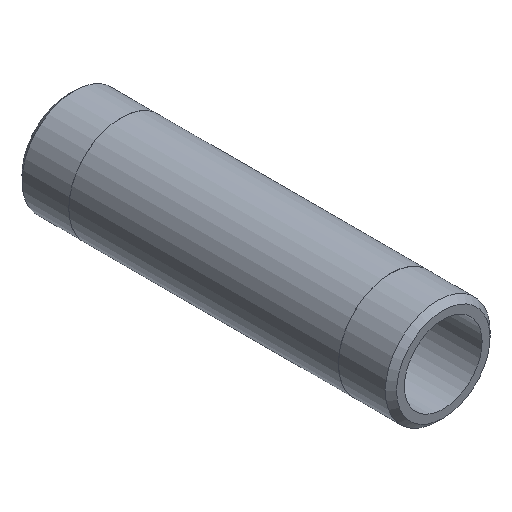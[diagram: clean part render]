
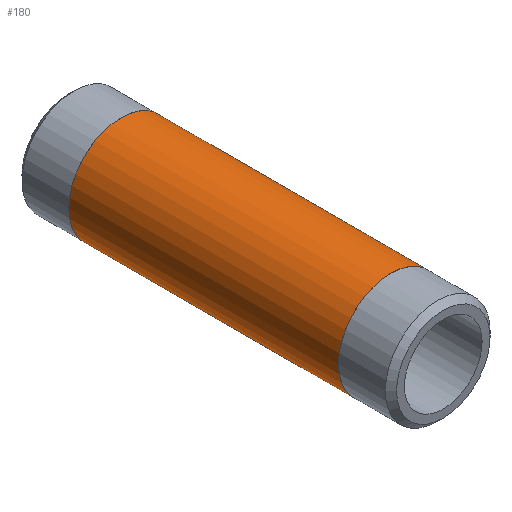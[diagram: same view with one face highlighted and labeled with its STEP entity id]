
A CAD part, isometric view. The second image highlights one B-rep face of the part: STEP entity #180.
In plain terms, the highlighted cylindrical face has radius 10.668 mm (diameter 21.336 mm), a full revolution.
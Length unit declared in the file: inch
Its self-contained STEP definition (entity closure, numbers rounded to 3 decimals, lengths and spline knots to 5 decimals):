
#25=CYLINDRICAL_SURFACE('',#220,0.42);
#34=FACE_OUTER_BOUND('',#47,.T.);
#47=EDGE_LOOP('',(#155,#156,#157,#158,#159,#160));
#55=LINE('',#338,#61);
#61=VECTOR('',#283,0.42);
#77=CIRCLE('',#218,0.42);
#78=CIRCLE('',#219,0.42);
#79=CIRCLE('',#221,0.42);
#80=CIRCLE('',#222,0.42);
#95=VERTEX_POINT('',#329);
#96=VERTEX_POINT('',#330);
#97=VERTEX_POINT('',#334);
#98=VERTEX_POINT('',#335);
#117=EDGE_CURVE('',#95,#96,#77,.T.);
#118=EDGE_CURVE('',#96,#95,#78,.T.);
#119=EDGE_CURVE('',#97,#98,#79,.T.);
#120=EDGE_CURVE('',#98,#97,#80,.T.);
#121=EDGE_CURVE('',#98,#96,#55,.T.);
#155=ORIENTED_EDGE('',*,*,#119,.F.);
#156=ORIENTED_EDGE('',*,*,#120,.F.);
#157=ORIENTED_EDGE('',*,*,#121,.T.);
#158=ORIENTED_EDGE('',*,*,#118,.T.);
#159=ORIENTED_EDGE('',*,*,#117,.T.);
#160=ORIENTED_EDGE('',*,*,#121,.F.);
#180=ADVANCED_FACE('',(#34),#25,.T.);
#218=AXIS2_PLACEMENT_3D('',#331,#273,#274);
#219=AXIS2_PLACEMENT_3D('',#332,#275,#276);
#220=AXIS2_PLACEMENT_3D('',#333,#277,#278);
#221=AXIS2_PLACEMENT_3D('',#336,#279,#280);
#222=AXIS2_PLACEMENT_3D('',#337,#281,#282);
#273=DIRECTION('center_axis',(0.,-1.,0.));
#274=DIRECTION('ref_axis',(1.,0.,0.));
#275=DIRECTION('center_axis',(0.,-1.,0.));
#276=DIRECTION('ref_axis',(1.,0.,0.));
#277=DIRECTION('center_axis',(0.,-1.,0.));
#278=DIRECTION('ref_axis',(0.,0.,-1.));
#279=DIRECTION('center_axis',(0.,-1.,0.));
#280=DIRECTION('ref_axis',(1.,0.,0.));
#281=DIRECTION('center_axis',(0.,-1.,0.));
#282=DIRECTION('ref_axis',(1.,0.,0.));
#283=DIRECTION('',(0.,1.,0.));
#329=CARTESIAN_POINT('',(0.,2.58,-0.42));
#330=CARTESIAN_POINT('',(0.,2.58,0.42));
#331=CARTESIAN_POINT('Origin',(0.,2.58,0.));
#332=CARTESIAN_POINT('Origin',(0.,2.58,0.));
#333=CARTESIAN_POINT('Origin',(0.,1.5,0.));
#334=CARTESIAN_POINT('',(0.,0.42,-0.42));
#335=CARTESIAN_POINT('',(0.,0.42,0.42));
#336=CARTESIAN_POINT('Origin',(0.,0.42,0.));
#337=CARTESIAN_POINT('Origin',(0.,0.42,0.));
#338=CARTESIAN_POINT('',(0.,1.5,0.42));
